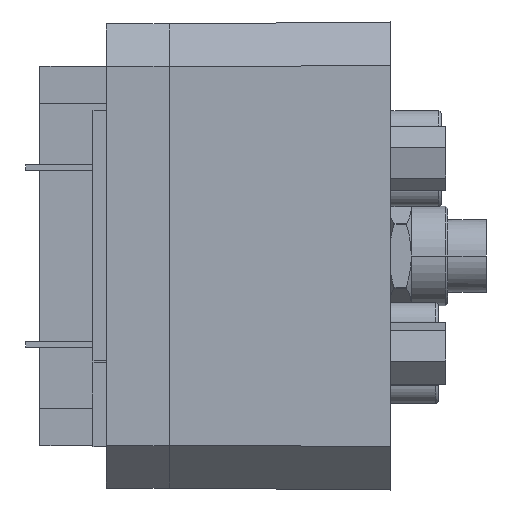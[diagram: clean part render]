
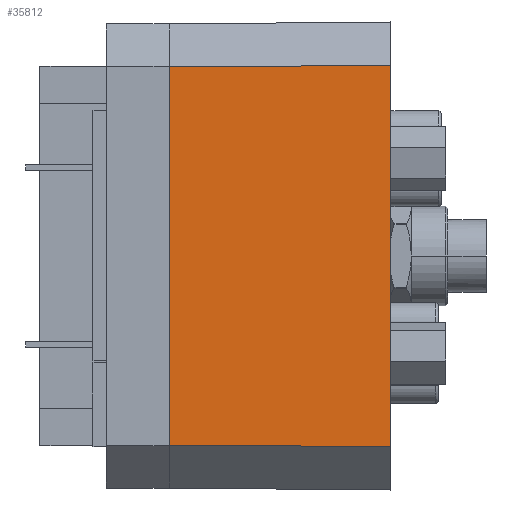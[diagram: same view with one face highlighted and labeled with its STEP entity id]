
A CAD part, front view. The second image highlights one B-rep face of the part: STEP entity #35812.
In plain terms, the highlighted planar face has unit normal (-0.009, -1, 0).
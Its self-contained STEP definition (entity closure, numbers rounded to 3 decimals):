
#12416 = LINE ( 'NONE', #14675, #12417 ) ;
#12417 = VECTOR ( 'NONE', #14676, 1000. ) ;
#12462 = LINE ( 'NONE', #14721, #12463 ) ;
#12463 = VECTOR ( 'NONE', #14722, 1000. ) ;
#12464 = LINE ( 'NONE', #14723, #12465 ) ;
#12465 = VECTOR ( 'NONE', #14724, 1000. ) ;
#12466 = LINE ( 'NONE', #14725, #12467 ) ;
#12467 = VECTOR ( 'NONE', #14726, 1000. ) ;
#13094 = AXIS2_PLACEMENT_3D ( 'NONE', #17394, #17395, #17396 ) ;
#14675 = CARTESIAN_POINT ( 'NONE',  ( -6.742, -17.125, 27.115 ) ) ;
#14676 = DIRECTION ( 'NONE',  ( 0., 0., 1. ) ) ;
#14721 = CARTESIAN_POINT ( 'NONE',  ( -6.728, -17.125, 23.265 ) ) ;
#14722 = DIRECTION ( 'NONE',  ( -1., 0.009, -0.004 ) ) ;
#14723 = CARTESIAN_POINT ( 'NONE',  ( -6.88, -17.124, -11.035 ) ) ;
#14724 = DIRECTION ( 'NONE',  ( 1., -0.009, -0.004 ) ) ;
#14725 = CARTESIAN_POINT ( 'NONE',  ( 13.258, -17.3, 27.115 ) ) ;
#14726 = DIRECTION ( 'NONE',  ( 0., 0., -1. ) ) ;
#15941 = CARTESIAN_POINT ( 'NONE',  ( -6.742, -17.125, -11.035 ) ) ;
#15942 = CARTESIAN_POINT ( 'NONE',  ( -6.742, -17.125, 23.265 ) ) ;
#15961 = CARTESIAN_POINT ( 'NONE',  ( 13.258, -17.3, 23.337 ) ) ;
#15962 = CARTESIAN_POINT ( 'NONE',  ( 13.258, -17.3, -11.107 ) ) ;
#17393 = PLANE ( 'NONE',  #13094 ) ;
#17394 = CARTESIAN_POINT ( 'NONE',  ( -6.742, -17.125, 27.115 ) ) ;
#17395 = DIRECTION ( 'NONE',  ( -0.009, -1., 0. ) ) ;
#17396 = DIRECTION ( 'NONE',  ( 1., -0.009, 0. ) ) ;
#18139 = FACE_OUTER_BOUND ( 'NONE', #34308, .T. ) ;
#31171 = EDGE_CURVE ( 'NONE', #32507, #32508, #12416, .T. ) ;
#31194 = EDGE_CURVE ( 'NONE', #32527, #32508, #12462, .T. ) ;
#31195 = EDGE_CURVE ( 'NONE', #32507, #32528, #12464, .T. ) ;
#31196 = EDGE_CURVE ( 'NONE', #32527, #32528, #12466, .T. ) ;
#32507 = VERTEX_POINT ( 'NONE', #15941 ) ;
#32508 = VERTEX_POINT ( 'NONE', #15942 ) ;
#32527 = VERTEX_POINT ( 'NONE', #15961 ) ;
#32528 = VERTEX_POINT ( 'NONE', #15962 ) ;
#34308 = EDGE_LOOP ( 'NONE', ( #35429, #35430, #35431, #35432 ) ) ;
#35429 = ORIENTED_EDGE ( 'NONE', *, *, #31194, .T. ) ;
#35430 = ORIENTED_EDGE ( 'NONE', *, *, #31171, .F. ) ;
#35431 = ORIENTED_EDGE ( 'NONE', *, *, #31195, .T. ) ;
#35432 = ORIENTED_EDGE ( 'NONE', *, *, #31196, .F. ) ;
#35812 = ADVANCED_FACE ( 'NONE', ( #18139 ), #17393, .T. ) ;
